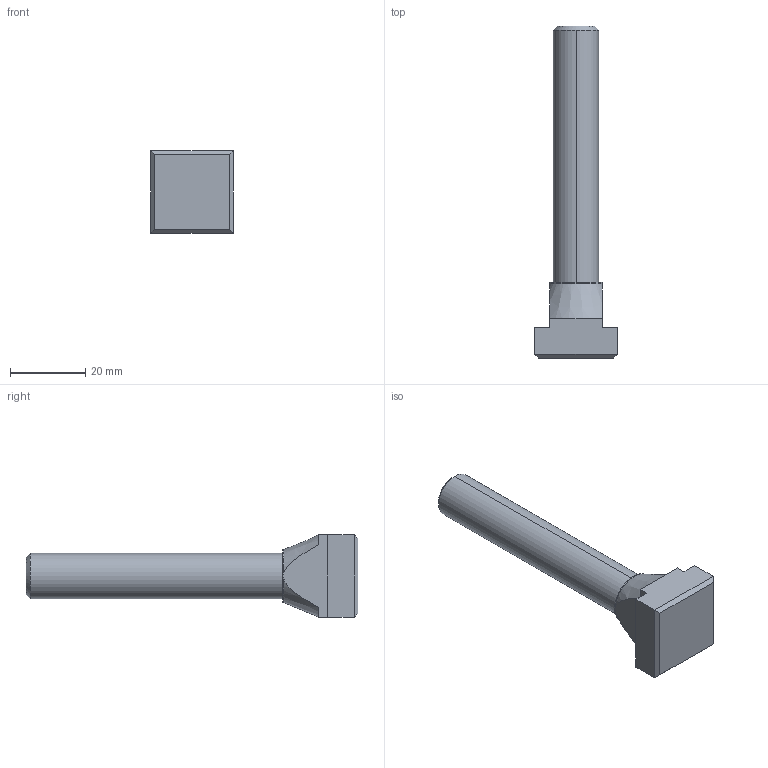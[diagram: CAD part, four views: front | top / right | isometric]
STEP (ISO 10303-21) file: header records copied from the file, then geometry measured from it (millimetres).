
FILE_DESCRIPTION (( 'STEP AP203' ), '1' );
FILE_NAME ('Wiberger-din787_14-m12x80.step', '2016-07-01T13:16:42', ( 'Magnus' ), ( 'Microsoft' ), 'SwSTEP 2.0', 'SolidWorks 2016', '' );
FILE_SCHEMA (( 'CONFIG_CONTROL_DESIGN' ));
Length unit declared in the file: millimetre
Products named in the file (1): Wiberger-din787_14-m12x80
Bounding box: 22 x 88 x 22 mm (x, y, z)
Volume: 14341 mm3; surface area: 4746.2 mm2
Topology: 1 solids, 1 shells, 27 faces, 66 edges, 42 vertices
Faces by surface type: plane 17, cone 5, cylinder 5
Entity records: 931 total; most frequent: CARTESIAN_POINT 218, ORIENTED_EDGE 132, DIRECTION 130, EDGE_CURVE 66, AXIS2_PLACEMENT_3D 44, LINE 42, VECTOR 42, VERTEX_POINT 42
